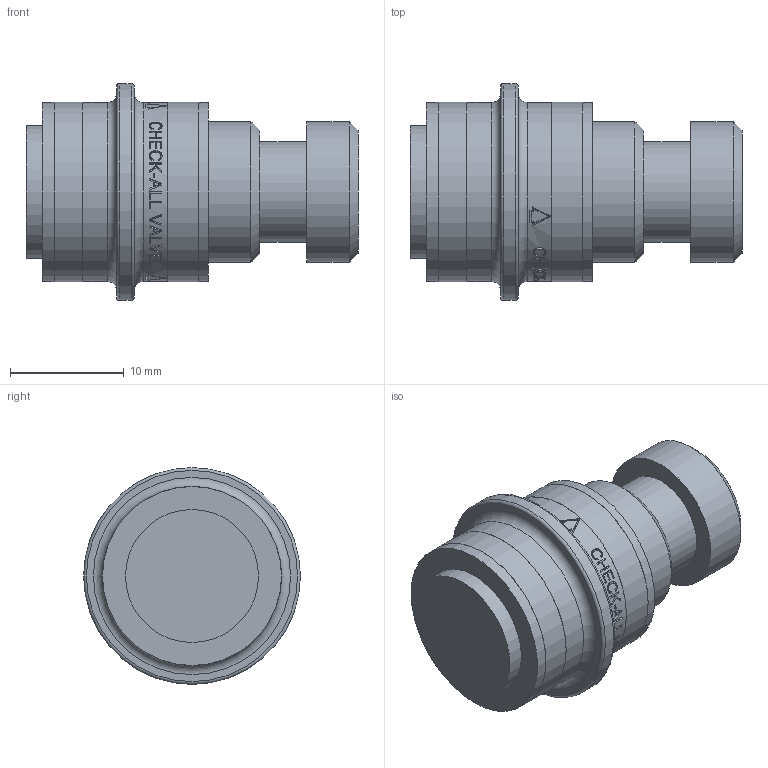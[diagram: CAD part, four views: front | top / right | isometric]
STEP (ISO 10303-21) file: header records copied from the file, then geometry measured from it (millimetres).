
FILE_DESCRIPTION( ( 'Unknown' ), '1' );
FILE_NAME( 'Y:/ENGR/3D Solid Edge Models/SC/SC-PRT/SCF.stp', 'Unknown', ( 'Unknown' ), ( 'Unknown' ), 'PSStep 14.0', 'Unknown', ' ' );
FILE_SCHEMA( ( 'AUTOMOTIVE_DESIGN { 1 0 10303 214 1 1 1 1 }' ) );
Length unit declared in the file: inch
Products named in the file (1): 1
Bounding box: 29.16 x 19.05 x 19.05 mm (x, y, z)
Volume: 4444.4 mm3; surface area: 1885.4 mm2
Topology: 1 solids, 1 shells, 212 faces, 526 edges, 349 vertices
Faces by surface type: plane 123, bspline 49, cylinder 34, torus 4, cone 2
Full cylindrical faces by diameter (mm): 8.839 x1, 11.684 x1, 12.319 x2, 15.723 x4, 15.748 x2, 19.05 x1
Entity records: 9048 total; most frequent: CARTESIAN_POINT 3428, ORIENTED_EDGE 1016, EDGE_CURVE 508, B_SPLINE_CURVE_WITH_KNOTS 480, DIRECTION 384, VERTEX_POINT 348, EDGE_LOOP 262, FACE_OUTER_BOUND 227
